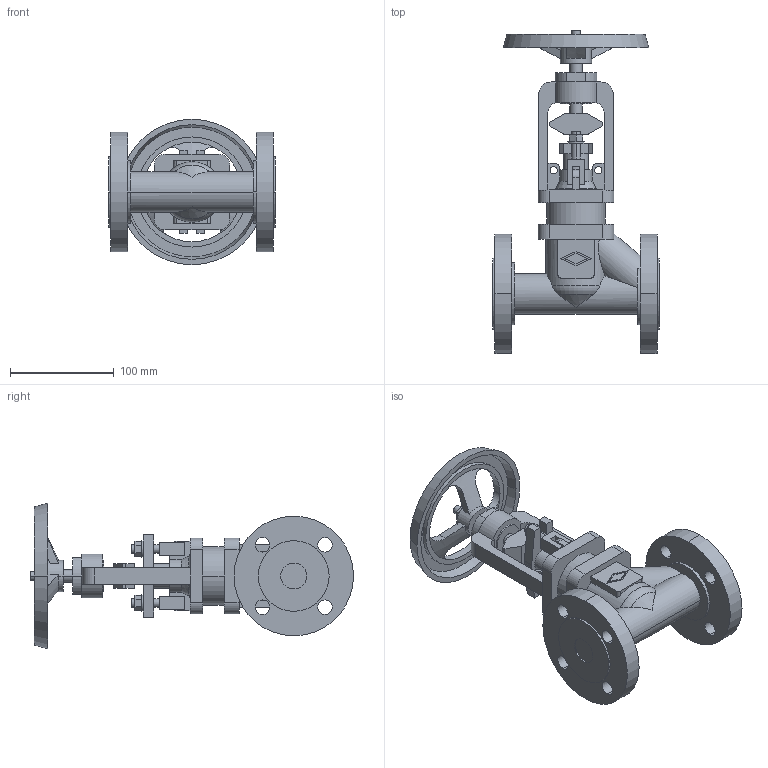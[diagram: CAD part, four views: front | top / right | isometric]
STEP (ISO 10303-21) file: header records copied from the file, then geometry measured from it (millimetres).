
FILE_DESCRIPTION(('OneSpaceDesigner STEP Export'),'2;1');
FILE_NAME('c000004286.stp','2010-05-05T10:29:03',(''),(''),'OneSpace Designer STEP processor for AP214 (Solid Model)','OneSpace Modeling 15.50B 03-Nov-2007 (C) CoCreate Software GmbH','');
FILE_SCHEMA(('AUTOMOTIVE_DESIGN { 1 0 10303 214 1 1 1 1 }'));
Length unit declared in the file: millimetre
Products named in the file (1): 1
Bounding box: 160 x 310.87 x 140 mm (x, y, z)
Volume: 1062017 mm3; surface area: 174588.5 mm2
Topology: 1 solids, 1 shells, 294 faces, 778 edges, 513 vertices
Faces by surface type: plane 153, cylinder 115, cone 20, torus 6
Entity records: 11421 total; most frequent: CARTESIAN_POINT 2066, ORIENTED_EDGE 1556, DIRECTION 1316, EDGE_CURVE 778, VERTEX_POINT 513, VECTOR 448, LINE 448, AXIS2_PLACEMENT_3D 434
